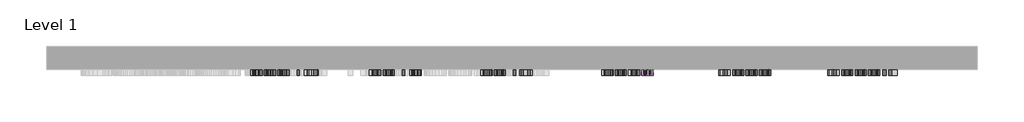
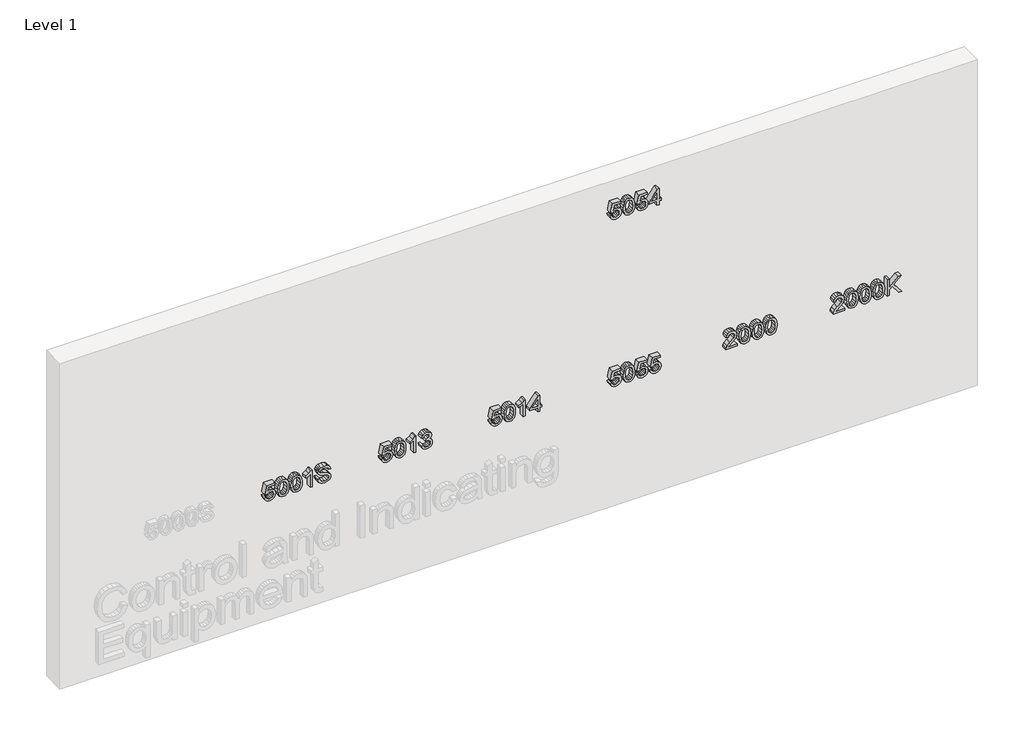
# One storey, part 2 of 2: 7 proxies.
"""IFC4 building model written with IfcOpenShell, lengths in millimetres."""

from ifc_helpers import new_model, si_unit, frame, origin, place, context, project, spatial, polyline, outline, extrude, element, save

model = new_model("IFC4")

# Units and contexts
model_context = context("Model", 3, world=origin())
ifc_project = project(units=[si_unit("LENGTHUNIT", "METRE", prefix="MILLI")], contexts=[model_context])

# Site, building, storey
site = spatial("IfcSite", under=ifc_project)
building = spatial("IfcBuilding", under=site)
storey = spatial("IfcBuildingStorey", under=building, Name="Level 1", Elevation=0.0)

# Proxies
placement = place(None, origin())
element("IfcBuildingElementProxy", 1, Name="150 mm", ObjectType="150 mm", at=placement, inside=storey, context=model_context, shape_type="SweptSolid", body=[
    extrude(outline(polyline([(1176.8590027, -3767.5415242), (1159.5823445, -3762.9475978), (1146.0856738, -3752.8446385), (1137.3806661, -3738.1063661), (1134.4789968, -3719.6065003), (1138.9947483, -3697.4232159), (1152.5420028, -3680.463856), (1168.6552342, -3671.6070969), (1187.4907923, -3668.6548439), (1206.786203, -3671.9335922), (1222.2188527, -3681.7698371), (1232.3448046, -3696.3793508), (1235.7201219, -3713.9779057), (1232.9977951, -3728.0769832), (1224.8308148, -3741.5322672), (1266.3279039, -3733.4756515), (1266.3279039, -3675.7181782), (1285.163462, -3675.7181782), (1285.163462, -3748.7059661), (1207.4667847, -3765.1870795), (1205.1123399, -3746.3515213), (1213.610414, -3735.7749139), (1216.8845637, -3719.2386183), (1214.8336216, -3705.2912921), (1208.6807953, -3695.3814709), (1198.9871047, -3689.4631693), (1186.3135699, -3687.4904021), (1172.8536874, -3689.5965265), (1162.346058, -3695.9148998), (1155.5724307, -3706.0316546), (1153.314555, -3719.5329239), (1154.9378343, -3730.6337631), (1159.8076722, -3739.2146106), (1167.9056746, -3745.2478753), (1179.2134474, -3748.7059661), (1176.8590027, -3767.5415242)])), frame((0.0, 3097.8550077, 0.0), z_axis=(0.0, 1.0, 0.0), x_axis=(0.0, 0.0, 1.0)), (0.0, 0.0, 1.0), 50.0),
    extrude(outline(polyline([(1210.9616636, -3652.1737305), (1174.3114199, -3648.4213342), (1148.8263946, -3637.1641451), (1138.0658463, -3622.3017125), (1134.4789968, -3602.7303904), (1136.5437345, -3587.5046743), (1142.7379476, -3575.1576348), (1153.130614, -3565.6064985), (1167.7907115, -3558.768492), (1186.9803561, -3554.6574107), (1210.9616636, -3553.2870502), (1246.3703057, -3556.7083528), (1268.6639546, -3565.5375207), (1282.6618645, -3580.7310471), (1287.5179068, -3602.7303904), (1285.4669647, -3617.873333), (1279.3141383, -3630.1927813), (1268.9628587, -3639.7577132), (1254.3165568, -3646.6371065), (1235.0809269, -3650.7895745), (1210.9616636, -3652.1737305)]), holes=[polyline([(1210.9984518, -3633.3381724), (1240.2450704, -3631.057304), (1258.602382, -3624.2146989), (1266.162357, -3614.7417375), (1268.6823487, -3602.9511196), (1265.8220662, -3590.498314), (1257.2412186, -3580.6574707), (1239.9599619, -3574.256324), (1210.9984518, -3572.1226084), (1181.4161409, -3574.3299004), (1164.2590443, -3580.9517763), (1156.0506773, -3590.8110137), (1153.314555, -3602.7303904), (1156.0414803, -3614.649767), (1164.2222561, -3624.5090045), (1181.3701556, -3631.1308804), (1210.9984518, -3633.3381724)])]), frame((0.0, 3097.8550077, 0.0), z_axis=(0.0, 1.0, 0.0), x_axis=(0.0, 0.0, 1.0)), (0.0, 0.0, 1.0), 50.0),
    extrude(outline(polyline([(1210.9616636, -3536.8059369), (1174.3114199, -3533.0535405), (1148.8263946, -3521.7963514), (1138.0658463, -3506.9339188), (1134.4789968, -3487.3625967), (1136.5437345, -3472.1368806), (1142.7379476, -3459.7898412), (1153.130614, -3450.2387049), (1167.7907115, -3443.4006983), (1186.9803561, -3439.289617), (1210.9616636, -3437.9192565), (1246.3703057, -3441.3405591), (1268.6639546, -3450.169727), (1282.6618645, -3465.3632534), (1287.5179068, -3487.3625967), (1285.4669647, -3502.5055393), (1279.3141383, -3514.8249876), (1268.9628587, -3524.3899195), (1254.3165568, -3531.2693128), (1235.0809269, -3535.4217808), (1210.9616636, -3536.8059369)]), holes=[polyline([(1210.9984518, -3517.9703787), (1240.2450704, -3515.6895103), (1258.602382, -3508.8469052), (1266.162357, -3499.3739438), (1268.6823487, -3487.5833259), (1265.8220662, -3475.1305204), (1257.2412186, -3465.289677), (1239.9599619, -3458.8885303), (1210.9984518, -3456.7548147), (1181.4161409, -3458.9621067), (1164.2590443, -3465.5839826), (1156.0506773, -3475.4432201), (1153.314555, -3487.3625967), (1156.0414803, -3499.2819733), (1164.2222561, -3509.1412108), (1181.3701556, -3515.7630867), (1210.9984518, -3517.9703787)])]), frame((0.0, 3097.8550077, 0.0), z_axis=(0.0, 1.0, 0.0), x_axis=(0.0, 0.0, 1.0)), (0.0, 0.0, 1.0), 50.0),
    extrude(outline(polyline([(1136.8334416, -3350.8048001), (1287.5179068, -3350.8048001), (1287.5179068, -3362.9449059), (1267.4683381, -3379.7019308), (1249.8467905, -3407.3114745), (1232.0413019, -3407.3114745), (1241.5510515, -3387.482635), (1254.2613745, -3369.6403582), (1136.8334416, -3369.6403582), (1136.8334416, -3350.8048001)])), frame((0.0, 3097.8550077, 0.0), z_axis=(0.0, 1.0, 0.0), x_axis=(0.0, 0.0, 1.0)), (0.0, 0.0, 1.0), 50.0),
    extrude(outline(polyline([(1188.6312265, -3306.0703495), (1173.419306, -3303.8354664), (1159.8628545, -3297.9401574), (1148.7344241, -3288.7569031), (1140.8065671, -3276.658184), (1136.0608894, -3261.4692561), (1134.4789968, -3243.0153755), (1135.9459263, -3227.9827975), (1140.3467146, -3214.522915), (1147.3916549, -3203.3301053), (1156.7910398, -3195.0987456), (1167.7125366, -3190.0357697), (1179.323812, -3188.348111), (1190.6821686, -3189.8150405), (1200.6241796, -3194.2158288), (1209.0578743, -3201.706826), (1215.8912824, -3212.4443817), (1225.3458496, -3245.7744905), (1235.8672747, -3276.5294253), (1241.6890073, -3281.0267827), (1248.9270855, -3282.5259018), (1257.4159626, -3280.4105803), (1264.5620703, -3274.0646159), (1269.4181127, -3263.0925354), (1271.0367934, -3247.0988656), (1269.3997186, -3231.4730779), (1264.4884939, -3220.2066918), (1256.3766959, -3212.9962047), (1245.137901, -3209.5381139), (1245.137901, -3190.7025558), (1257.6182977, -3192.8270743), (1268.7191369, -3198.1705603), (1277.8702015, -3206.6134521), (1284.5012745, -3218.036188), (1289.8723516, -3247.8346296), (1284.7403978, -3275.7568731), (1278.4128274, -3286.7979315), (1269.6940242, -3294.8315545), (1259.4071239, -3299.7289836), (1248.3752625, -3301.3614599), (1229.650069, -3296.0823533), (1215.633765, -3280.0610924), (1206.3447446, -3250.5385623), (1199.1526516, -3223.1129596), (1190.5993952, -3210.3106661), (1178.8455654, -3207.1836692), (1166.2088189, -3211.3591298), (1156.7542516, -3224.0694528), (1153.314555, -3243.7511395), (1157.8578976, -3266.339094), (1169.7772743, -3281.1647384), (1188.6312265, -3287.2347913), (1188.6312265, -3306.0703495)])), frame((0.0, 3097.8550077, 0.0), z_axis=(0.0, 1.0, 0.0), x_axis=(0.0, 0.0, 1.0)), (0.0, 0.0, 1.0), 50.0),
])
element("IfcBuildingElementProxy", 2, Name="150 mm", ObjectType="150 mm", at=placement, inside=storey, context=model_context, shape_type="SweptSolid", body=[
    extrude(outline(polyline([(1176.8590027, -2747.5415242), (1159.5823445, -2742.9475978), (1146.0856738, -2732.8446385), (1137.3806661, -2718.1063661), (1134.4789968, -2699.6065003), (1138.9947483, -2677.4232159), (1152.5420028, -2660.463856), (1168.6552342, -2651.6070969), (1187.4907923, -2648.6548439), (1206.786203, -2651.9335922), (1222.2188527, -2661.7698371), (1232.3448046, -2676.3793508), (1235.7201219, -2693.9779057), (1232.9977951, -2708.0769832), (1224.8308148, -2721.5322672), (1266.3279039, -2713.4756515), (1266.3279039, -2655.7181782), (1285.163462, -2655.7181782), (1285.163462, -2728.7059661), (1207.4667847, -2745.1870795), (1205.1123399, -2726.3515213), (1213.610414, -2715.7749139), (1216.8845637, -2699.2386183), (1214.8336216, -2685.2912921), (1208.6807953, -2675.3814709), (1198.9871047, -2669.4631693), (1186.3135699, -2667.4904021), (1172.8536874, -2669.5965265), (1162.346058, -2675.9148998), (1155.5724307, -2686.0316546), (1153.314555, -2699.5329239), (1154.9378343, -2710.6337631), (1159.8076722, -2719.2146106), (1167.9056746, -2725.2478753), (1179.2134474, -2728.7059661), (1176.8590027, -2747.5415242)])), frame((0.0, 3097.8550077, 0.0), z_axis=(0.0, 1.0, 0.0), x_axis=(0.0, 0.0, 1.0)), (0.0, 0.0, 1.0), 50.0),
    extrude(outline(polyline([(1210.9616636, -2632.1737305), (1174.3114199, -2628.4213342), (1148.8263946, -2617.1641451), (1138.0658463, -2602.3017125), (1134.4789968, -2582.7303904), (1136.5437345, -2567.5046743), (1142.7379476, -2555.1576348), (1153.130614, -2545.6064985), (1167.7907115, -2538.768492), (1186.9803561, -2534.6574107), (1210.9616636, -2533.2870502), (1246.3703057, -2536.7083528), (1268.6639546, -2545.5375207), (1282.6618645, -2560.7310471), (1287.5179068, -2582.7303904), (1285.4669647, -2597.873333), (1279.3141383, -2610.1927813), (1268.9628587, -2619.7577132), (1254.3165568, -2626.6371065), (1235.0809269, -2630.7895745), (1210.9616636, -2632.1737305)]), holes=[polyline([(1210.9984518, -2613.3381724), (1240.2450704, -2611.057304), (1258.602382, -2604.2146989), (1266.162357, -2594.7417375), (1268.6823487, -2582.9511196), (1265.8220662, -2570.498314), (1257.2412186, -2560.6574707), (1239.9599619, -2554.256324), (1210.9984518, -2552.1226084), (1181.4161409, -2554.3299004), (1164.2590443, -2560.9517763), (1156.0506773, -2570.8110137), (1153.314555, -2582.7303904), (1156.0414803, -2594.649767), (1164.2222561, -2604.5090045), (1181.3701556, -2611.1308804), (1210.9984518, -2613.3381724)])]), frame((0.0, 3097.8550077, 0.0), z_axis=(0.0, 1.0, 0.0), x_axis=(0.0, 0.0, 1.0)), (0.0, 0.0, 1.0), 50.0),
    extrude(outline(polyline([(1136.8334416, -2446.1725938), (1287.5179068, -2446.1725938), (1287.5179068, -2458.3126996), (1267.4683381, -2475.0697245), (1249.8467905, -2502.6792682), (1232.0413019, -2502.6792682), (1241.5510515, -2482.8504287), (1254.2613745, -2465.0081519), (1136.8334416, -2465.0081519), (1136.8334416, -2446.1725938)])), frame((0.0, 3097.8550077, 0.0), z_axis=(0.0, 1.0, 0.0), x_axis=(0.0, 0.0, 1.0)), (0.0, 0.0, 1.0), 50.0),
    extrude(outline(polyline([(1176.8590027, -2401.4381432), (1159.8352633, -2396.7752389), (1146.2880089, -2386.465346), (1137.4312498, -2371.6397016), (1134.4789968, -2353.4295428), (1137.9370876, -2333.2972006), (1148.3113598, -2316.9724371), (1163.652039, -2306.1567064), (1182.0093506, -2302.5514629), (1195.4922257, -2304.3540846), (1206.5102915, -2309.76195), (1214.6220895, -2318.4991474), (1219.3861613, -2330.2897653), (1231.8573609, -2314.8387215), (1249.2213911, -2309.6147972), (1268.2224962, -2315.114633), (1282.3491648, -2331.0071352), (1287.5179068, -2353.7238484), (1284.8967476, -2370.1681736), (1277.03327, -2383.6694428), (1264.4057205, -2393.5378773), (1247.4923457, -2399.0836984), (1245.137901, -2380.2481402), (1255.4385968, -2376.9096111), (1262.7962367, -2371.0143022), (1267.2108207, -2362.9392924), (1268.6823487, -2353.0616608), (1267.2246163, -2343.2024233), (1262.851419, -2335.3297486), (1256.2525358, -2330.1702036), (1248.1177451, -2328.4503553), (1238.3504782, -2330.8231942), (1231.489479, -2337.9417108), (1226.0816136, -2359.3156547), (1226.3023428, -2362.3322871), (1207.4667847, -2364.4292144), (1209.5269238, -2351.2222508), (1207.6001419, -2339.3764506), (1201.819796, -2329.8115187), (1193.0963942, -2323.4931454), (1182.3404444, -2321.387021), (1171.0096789, -2323.5115395), (1161.6654763, -2329.8850951), (1155.4022853, -2339.8546972), (1153.314555, -2352.7673552), (1154.8320682, -2363.7716254), (1159.3846079, -2372.2099186), (1167.3768442, -2378.3857376), (1179.2134474, -2382.602585), (1176.8590027, -2401.4381432)])), frame((0.0, 3097.8550077, 0.0), z_axis=(0.0, 1.0, 0.0), x_axis=(0.0, 0.0, 1.0)), (0.0, 0.0, 1.0), 50.0),
])
element("IfcBuildingElementProxy", 3, Name="150 mm", ObjectType="150 mm", at=placement, inside=storey, context=model_context, shape_type="SweptSolid", body=[
    extrude(outline(polyline([(1176.8590027, -1793.2331678), (1159.5823445, -1788.6392414), (1146.0856738, -1778.5362821), (1137.3806661, -1763.7980097), (1134.4789968, -1745.2981438), (1138.9947483, -1723.1148595), (1152.5420028, -1706.1554995), (1168.6552342, -1697.2987405), (1187.4907923, -1694.3464875), (1206.786203, -1697.6252358), (1222.2188527, -1707.4614806), (1232.3448046, -1722.0709944), (1235.7201219, -1739.6695493), (1232.9977951, -1753.7686268), (1224.8308148, -1767.2239107), (1266.3279039, -1759.167295), (1266.3279039, -1701.4098218), (1285.163462, -1701.4098218), (1285.163462, -1774.3976096), (1207.4667847, -1790.878723), (1205.1123399, -1772.0431649), (1213.610414, -1761.4665575), (1216.8845637, -1744.9302618), (1214.8336216, -1730.9829357), (1208.6807953, -1721.0731144), (1198.9871047, -1715.1548129), (1186.3135699, -1713.1820457), (1172.8536874, -1715.2881701), (1162.346058, -1721.6065433), (1155.5724307, -1731.7232982), (1153.314555, -1745.2245674), (1154.9378343, -1756.3254066), (1159.8076722, -1764.9062542), (1167.9056746, -1770.9395189), (1179.2134474, -1774.3976096), (1176.8590027, -1793.2331678)])), frame((0.0, 3097.8550077, 0.0), z_axis=(0.0, 1.0, 0.0), x_axis=(0.0, 0.0, 1.0)), (0.0, 0.0, 1.0), 50.0),
    extrude(outline(polyline([(1210.9616636, -1677.8653741), (1174.3114199, -1674.1129778), (1148.8263946, -1662.8557887), (1138.0658463, -1647.9933561), (1134.4789968, -1628.422034), (1136.5437345, -1613.1963179), (1142.7379476, -1600.8492784), (1153.130614, -1591.2981421), (1167.7907115, -1584.4601355), (1186.9803561, -1580.3490542), (1210.9616636, -1578.9786938), (1246.3703057, -1582.3999964), (1268.6639546, -1591.2291643), (1282.6618645, -1606.4226907), (1287.5179068, -1628.422034), (1285.4669647, -1643.5649766), (1279.3141383, -1655.8844249), (1268.9628587, -1665.4493568), (1254.3165568, -1672.3287501), (1235.0809269, -1676.4812181), (1210.9616636, -1677.8653741)]), holes=[polyline([(1210.9984518, -1659.029816), (1240.2450704, -1656.7489476), (1258.602382, -1649.9063425), (1266.162357, -1640.4333811), (1268.6823487, -1628.6427632), (1265.8220662, -1616.1899576), (1257.2412186, -1606.3491143), (1239.9599619, -1599.9479675), (1210.9984518, -1597.814252), (1181.4161409, -1600.0215439), (1164.2590443, -1606.6434198), (1156.0506773, -1616.5026573), (1153.314555, -1628.422034), (1156.0414803, -1640.3414106), (1164.2222561, -1650.2006481), (1181.3701556, -1656.822524), (1210.9984518, -1659.029816)])]), frame((0.0, 3097.8550077, 0.0), z_axis=(0.0, 1.0, 0.0), x_axis=(0.0, 0.0, 1.0)), (0.0, 0.0, 1.0), 50.0),
    extrude(outline(polyline([(1136.8334416, -1491.8642374), (1287.5179068, -1491.8642374), (1287.5179068, -1504.0043432), (1267.4683381, -1520.7613681), (1249.8467905, -1548.3709118), (1232.0413019, -1548.3709118), (1241.5510515, -1528.5420723), (1254.2613745, -1510.6997955), (1136.8334416, -1510.6997955), (1136.8334416, -1491.8642374)])), frame((0.0, 3097.8550077, 0.0), z_axis=(0.0, 1.0, 0.0), x_axis=(0.0, 0.0, 1.0)), (0.0, 0.0, 1.0), 50.0),
    extrude(outline(polyline([(1136.8334416, -1385.9142227), (1136.8334416, -1367.0786646), (1172.1501131, -1367.0786646), (1172.1501131, -1348.2431064), (1190.9856713, -1348.2431064), (1190.9856713, -1367.0786646), (1285.163462, -1367.0786646), (1285.163462, -1381.2053332), (1190.9856713, -1454.193121), (1172.1501131, -1454.193121), (1172.1501131, -1385.9142227), (1136.8334416, -1385.9142227)]), holes=[polyline([(1190.9856713, -1385.9142227), (1190.9856713, -1431.0165554), (1249.1846029, -1385.9142227), (1190.9856713, -1385.9142227)])]), frame((0.0, 3097.8550077, 0.0), z_axis=(0.0, 1.0, 0.0), x_axis=(0.0, 0.0, 1.0)), (0.0, 0.0, 1.0), 50.0),
])
element("IfcBuildingElementProxy", 4, Name="150 mm", ObjectType="150 mm", at=placement, inside=storey, context=model_context, shape_type="SweptSolid", body=[
    extrude(outline(polyline([(1176.8590027, -753.2331678), (1159.5823445, -748.6392414), (1146.0856738, -738.5362821), (1137.3806661, -723.7980097), (1134.4789968, -705.2981438), (1138.9947483, -683.1148595), (1152.5420028, -666.1554995), (1168.6552342, -657.2987405), (1187.4907923, -654.3464875), (1206.786203, -657.6252358), (1222.2188527, -667.4614806), (1232.3448046, -682.0709944), (1235.7201219, -699.6695493), (1232.9977951, -713.7686268), (1224.8308148, -727.2239107), (1266.3279039, -719.167295), (1266.3279039, -661.4098218), (1285.163462, -661.4098218), (1285.163462, -734.3976096), (1207.4667847, -750.878723), (1205.1123399, -732.0431649), (1213.610414, -721.4665575), (1216.8845637, -704.9302618), (1214.8336216, -690.9829357), (1208.6807953, -681.0731144), (1198.9871047, -675.1548129), (1186.3135699, -673.1820457), (1172.8536874, -675.2881701), (1162.346058, -681.6065433), (1155.5724307, -691.7232982), (1153.314555, -705.2245674), (1154.9378343, -716.3254066), (1159.8076722, -724.9062542), (1167.9056746, -730.9395189), (1179.2134474, -734.3976096), (1176.8590027, -753.2331678)])), frame((0.0, 3097.8550077, 0.0), z_axis=(0.0, 1.0, 0.0), x_axis=(0.0, 0.0, 1.0)), (0.0, 0.0, 1.0), 50.0),
    extrude(outline(polyline([(1210.9616636, -637.8653741), (1174.3114199, -634.1129778), (1148.8263946, -622.8557887), (1138.0658463, -607.9933561), (1134.4789968, -588.422034), (1136.5437345, -573.1963179), (1142.7379476, -560.8492784), (1153.130614, -551.2981421), (1167.7907115, -544.4601355), (1186.9803561, -540.3490542), (1210.9616636, -538.9786938), (1246.3703057, -542.3999964), (1268.6639546, -551.2291643), (1282.6618645, -566.4226907), (1287.5179068, -588.422034), (1285.4669647, -603.5649766), (1279.3141383, -615.8844249), (1268.9628587, -625.4493568), (1254.3165568, -632.3287501), (1235.0809269, -636.4812181), (1210.9616636, -637.8653741)]), holes=[polyline([(1210.9984518, -619.029816), (1240.2450704, -616.7489476), (1258.602382, -609.9063425), (1266.162357, -600.4333811), (1268.6823487, -588.6427632), (1265.8220662, -576.1899576), (1257.2412186, -566.3491143), (1239.9599619, -559.9479675), (1210.9984518, -557.814252), (1181.4161409, -560.0215439), (1164.2590443, -566.6434198), (1156.0506773, -576.5026573), (1153.314555, -588.422034), (1156.0414803, -600.3414106), (1164.2222561, -610.2006481), (1181.3701556, -616.822524), (1210.9984518, -619.029816)])]), frame((0.0, 3097.8550077, 0.0), z_axis=(0.0, 1.0, 0.0), x_axis=(0.0, 0.0, 1.0)), (0.0, 0.0, 1.0), 50.0),
    extrude(outline(polyline([(1176.8590027, -522.4975804), (1159.5823445, -517.903654), (1146.0856738, -507.8006947), (1137.3806661, -493.0624223), (1134.4789968, -474.5625565), (1138.9947483, -452.3792721), (1152.5420028, -435.4199122), (1168.6552342, -426.5631531), (1187.4907923, -423.6109001), (1206.786203, -426.8896484), (1222.2188527, -436.7258933), (1232.3448046, -451.335407), (1235.7201219, -468.9339619), (1232.9977951, -483.0330394), (1224.8308148, -496.4883234), (1266.3279039, -488.4317077), (1266.3279039, -430.6742344), (1285.163462, -430.6742344), (1285.163462, -503.6620223), (1207.4667847, -520.1431357), (1205.1123399, -501.3075775), (1213.610414, -490.7309701), (1216.8845637, -474.1946745), (1214.8336216, -460.2473483), (1208.6807953, -450.3375271), (1198.9871047, -444.4192255), (1186.3135699, -442.4464583), (1172.8536874, -444.5525827), (1162.346058, -450.870956), (1155.5724307, -460.9877108), (1153.314555, -474.4889801), (1154.9378343, -485.5898193), (1159.8076722, -494.1706668), (1167.9056746, -500.2039315), (1179.2134474, -503.6620223), (1176.8590027, -522.4975804)])), frame((0.0, 3097.8550077, 0.0), z_axis=(0.0, 1.0, 0.0), x_axis=(0.0, 0.0, 1.0)), (0.0, 0.0, 1.0), 50.0),
    extrude(outline(polyline([(1176.8590027, -407.1297867), (1159.5823445, -402.5358603), (1146.0856738, -392.432901), (1137.3806661, -377.6946286), (1134.4789968, -359.1947628), (1138.9947483, -337.0114785), (1152.5420028, -320.0521185), (1168.6552342, -311.1953594), (1187.4907923, -308.2431064), (1206.786203, -311.5218547), (1222.2188527, -321.3580996), (1232.3448046, -335.9676133), (1235.7201219, -353.5661682), (1232.9977951, -367.6652457), (1224.8308148, -381.1205297), (1266.3279039, -373.063914), (1266.3279039, -315.3064407), (1285.163462, -315.3064407), (1285.163462, -388.2942286), (1207.4667847, -404.775342), (1205.1123399, -385.9397838), (1213.610414, -375.3631765), (1216.8845637, -358.8268808), (1214.8336216, -344.8795546), (1208.6807953, -334.9697334), (1198.9871047, -329.0514318), (1186.3135699, -327.0786646), (1172.8536874, -329.184789), (1162.346058, -335.5031623), (1155.5724307, -345.6199171), (1153.314555, -359.1211864), (1154.9378343, -370.2220256), (1159.8076722, -378.8028731), (1167.9056746, -384.8361378), (1179.2134474, -388.2942286), (1176.8590027, -407.1297867)])), frame((0.0, 3097.8550077, 0.0), z_axis=(0.0, 1.0, 0.0), x_axis=(0.0, 0.0, 1.0)), (0.0, 0.0, 1.0), 50.0),
])
element("IfcBuildingElementProxy", 5, Name="150 mm", ObjectType="150 mm", at=placement, inside=storey, context=model_context, shape_type="SweptSolid", body=[
    extrude(outline(polyline([(2716.8590027, -753.2331678), (2699.5823445, -748.6392414), (2686.0856738, -738.5362821), (2677.3806661, -723.7980097), (2674.4789968, -705.2981438), (2678.9947483, -683.1148595), (2692.5420028, -666.1554995), (2708.6552342, -657.2987405), (2727.4907923, -654.3464875), (2746.786203, -657.6252358), (2762.2188527, -667.4614806), (2772.3448046, -682.0709944), (2775.7201219, -699.6695493), (2772.9977951, -713.7686268), (2764.8308148, -727.2239107), (2806.3279039, -719.167295), (2806.3279039, -661.4098218), (2825.163462, -661.4098218), (2825.163462, -734.3976096), (2747.4667847, -750.878723), (2745.1123399, -732.0431649), (2753.610414, -721.4665575), (2756.8845637, -704.9302618), (2754.8336216, -690.9829357), (2748.6807953, -681.0731144), (2738.9871047, -675.1548129), (2726.3135699, -673.1820457), (2712.8536874, -675.2881701), (2702.346058, -681.6065433), (2695.5724307, -691.7232982), (2693.314555, -705.2245674), (2694.9378343, -716.3254066), (2699.8076722, -724.9062542), (2707.9056746, -730.9395189), (2719.2134474, -734.3976096), (2716.8590027, -753.2331678)])), frame((0.0, 3097.8550077, 0.0), z_axis=(0.0, 1.0, 0.0), x_axis=(0.0, 0.0, 1.0)), (0.0, 0.0, 1.0), 50.0),
    extrude(outline(polyline([(2750.9616636, -637.8653741), (2714.3114199, -634.1129778), (2688.8263946, -622.8557887), (2678.0658463, -607.9933561), (2674.4789968, -588.422034), (2676.5437345, -573.1963179), (2682.7379476, -560.8492784), (2693.130614, -551.2981421), (2707.7907115, -544.4601355), (2726.9803561, -540.3490542), (2750.9616636, -538.9786938), (2786.3703057, -542.3999964), (2808.6639546, -551.2291643), (2822.6618645, -566.4226907), (2827.5179068, -588.422034), (2825.4669647, -603.5649766), (2819.3141383, -615.8844249), (2808.9628587, -625.4493568), (2794.3165568, -632.3287501), (2775.0809269, -636.4812181), (2750.9616636, -637.8653741)]), holes=[polyline([(2750.9984518, -619.029816), (2780.2450704, -616.7489476), (2798.602382, -609.9063425), (2806.162357, -600.4333811), (2808.6823487, -588.6427632), (2805.8220662, -576.1899576), (2797.2412186, -566.3491143), (2779.9599619, -559.9479675), (2750.9984518, -557.814252), (2721.4161409, -560.0215439), (2704.2590443, -566.6434198), (2696.0506773, -576.5026573), (2693.314555, -588.422034), (2696.0414803, -600.3414106), (2704.2222561, -610.2006481), (2721.3701556, -616.822524), (2750.9984518, -619.029816)])]), frame((0.0, 3097.8550077, 0.0), z_axis=(0.0, 1.0, 0.0), x_axis=(0.0, 0.0, 1.0)), (0.0, 0.0, 1.0), 50.0),
    extrude(outline(polyline([(2716.8590027, -522.4975804), (2699.5823445, -517.903654), (2686.0856738, -507.8006947), (2677.3806661, -493.0624223), (2674.4789968, -474.5625565), (2678.9947483, -452.3792721), (2692.5420028, -435.4199122), (2708.6552342, -426.5631531), (2727.4907923, -423.6109001), (2746.786203, -426.8896484), (2762.2188527, -436.7258933), (2772.3448046, -451.335407), (2775.7201219, -468.9339619), (2772.9977951, -483.0330394), (2764.8308148, -496.4883234), (2806.3279039, -488.4317077), (2806.3279039, -430.6742344), (2825.163462, -430.6742344), (2825.163462, -503.6620223), (2747.4667847, -520.1431357), (2745.1123399, -501.3075775), (2753.610414, -490.7309701), (2756.8845637, -474.1946745), (2754.8336216, -460.2473483), (2748.6807953, -450.3375271), (2738.9871047, -444.4192255), (2726.3135699, -442.4464583), (2712.8536874, -444.5525827), (2702.346058, -450.870956), (2695.5724307, -460.9877108), (2693.314555, -474.4889801), (2694.9378343, -485.5898193), (2699.8076722, -494.1706668), (2707.9056746, -500.2039315), (2719.2134474, -503.6620223), (2716.8590027, -522.4975804)])), frame((0.0, 3097.8550077, 0.0), z_axis=(0.0, 1.0, 0.0), x_axis=(0.0, 0.0, 1.0)), (0.0, 0.0, 1.0), 50.0),
    extrude(outline(polyline([(2676.8334416, -345.9142227), (2676.8334416, -327.0786646), (2712.1501131, -327.0786646), (2712.1501131, -308.2431064), (2730.9856713, -308.2431064), (2730.9856713, -327.0786646), (2825.163462, -327.0786646), (2825.163462, -341.2053332), (2730.9856713, -414.193121), (2712.1501131, -414.193121), (2712.1501131, -345.9142227), (2676.8334416, -345.9142227)]), holes=[polyline([(2730.9856713, -345.9142227), (2730.9856713, -391.0165554), (2789.1846029, -345.9142227), (2730.9856713, -345.9142227)])]), frame((0.0, 3097.8550077, 0.0), z_axis=(0.0, 1.0, 0.0), x_axis=(0.0, 0.0, 1.0)), (0.0, 0.0, 1.0), 50.0),
])
element("IfcBuildingElementProxy", 6, Name="150 mm", ObjectType="150 mm", at=placement, inside=storey, context=model_context, shape_type="SweptSolid", body=[
    extrude(outline(polyline([(1155.6689997, 352.9302857), (1155.6689997, 278.9492165), (1165.2523257, 287.4472906), (1183.370514, 309.1155401), (1209.1774359, 336.0996844), (1227.6451121, 347.2281148), (1245.505783, 350.5758409), (1261.9317141, 347.4718366), (1275.4513774, 338.1598236), (1284.5012745, 323.5227187), (1287.5179068, 304.4434387), (1284.8047771, 285.5021145), (1276.665388, 270.8374185), (1263.3572568, 260.9643854), (1245.137901, 256.3980502), (1242.7834562, 275.2336083), (1253.6083839, 277.2707549), (1261.8029554, 283.1614653), (1266.9625003, 292.2895373), (1268.6823487, 304.0387685), (1266.9211136, 315.2269797), (1261.6374085, 324.0699432), (1253.7969234, 329.8226979), (1244.3653488, 331.7402828), (1233.8439237, 329.7077348), (1223.0281931, 323.6100907), (1191.6478589, 291.0893223), (1169.8140625, 267.5080864), (1149.819676, 256.0669564), (1136.8334416, 254.0436054), (1136.8334416, 352.9302857), (1155.6689997, 352.9302857)])), frame((0.0, 3097.8550077, 0.0), z_axis=(0.0, 1.0, 0.0), x_axis=(0.0, 0.0, 1.0)), (0.0, 0.0, 1.0), 50.0),
    extrude(outline(polyline([(1210.9616636, 371.7658439), (1174.3114199, 375.5182402), (1148.8263946, 386.7754293), (1138.0658463, 401.6378619), (1134.4789968, 421.209184), (1136.5437345, 436.4349001), (1142.7379476, 448.7819395), (1153.130614, 458.3330758), (1167.7907115, 465.1710824), (1186.9803561, 469.2821637), (1210.9616636, 470.6525242), (1246.3703057, 467.2312216), (1268.6639546, 458.4020537), (1282.6618645, 443.2085273), (1287.5179068, 421.209184), (1285.4669647, 406.0662414), (1279.3141383, 393.7467931), (1268.9628587, 384.1818612), (1254.3165568, 377.3024679), (1235.0809269, 373.1499999), (1210.9616636, 371.7658439)]), holes=[polyline([(1210.9984518, 390.601402), (1240.2450704, 392.8822704), (1258.602382, 399.7248755), (1266.162357, 409.1978369), (1268.6823487, 420.9884548), (1265.8220662, 433.4412603), (1257.2412186, 443.2821037), (1239.9599619, 449.6832504), (1210.9984518, 451.816966), (1181.4161409, 449.609674), (1164.2590443, 442.9877981), (1156.0506773, 433.1285607), (1153.314555, 421.209184), (1156.0414803, 409.2898074), (1164.2222561, 399.4305699), (1181.3701556, 392.808694), (1210.9984518, 390.601402)])]), frame((0.0, 3097.8550077, 0.0), z_axis=(0.0, 1.0, 0.0), x_axis=(0.0, 0.0, 1.0)), (0.0, 0.0, 1.0), 50.0),
    extrude(outline(polyline([(1210.9616636, 487.1336375), (1174.3114199, 490.8860339), (1148.8263946, 502.1432229), (1138.0658463, 517.0056556), (1134.4789968, 536.5769777), (1136.5437345, 551.8026938), (1142.7379476, 564.1497332), (1153.130614, 573.7008695), (1167.7907115, 580.5388761), (1186.9803561, 584.6499574), (1210.9616636, 586.0203178), (1246.3703057, 582.5990153), (1268.6639546, 573.7698474), (1282.6618645, 558.576321), (1287.5179068, 536.5769777), (1285.4669647, 521.4340351), (1279.3141383, 509.1145868), (1268.9628587, 499.5496549), (1254.3165568, 492.6702616), (1235.0809269, 488.5177936), (1210.9616636, 487.1336375)]), holes=[polyline([(1210.9984518, 505.9691957), (1240.2450704, 508.2500641), (1258.602382, 515.0926692), (1266.162357, 524.5656306), (1268.6823487, 536.3562485), (1265.8220662, 548.809054), (1257.2412186, 558.6498974), (1239.9599619, 565.0510441), (1210.9984518, 567.1847597), (1181.4161409, 564.9774677), (1164.2590443, 558.3555918), (1156.0506773, 548.4963543), (1153.314555, 536.5769777), (1156.0414803, 524.6576011), (1164.2222561, 514.7983636), (1181.3701556, 508.1764877), (1210.9984518, 505.9691957)])]), frame((0.0, 3097.8550077, 0.0), z_axis=(0.0, 1.0, 0.0), x_axis=(0.0, 0.0, 1.0)), (0.0, 0.0, 1.0), 50.0),
    extrude(outline(polyline([(1210.9616636, 602.5014312), (1174.3114199, 606.2538276), (1148.8263946, 617.5110166), (1138.0658463, 632.3734492), (1134.4789968, 651.9447714), (1136.5437345, 667.1704875), (1142.7379476, 679.5175269), (1153.130614, 689.0686632), (1167.7907115, 695.9066698), (1186.9803561, 700.0177511), (1210.9616636, 701.3881115), (1246.3703057, 697.966809), (1268.6639546, 689.1376411), (1282.6618645, 673.9441147), (1287.5179068, 651.9447714), (1285.4669647, 636.8018288), (1279.3141383, 624.4823804), (1268.9628587, 614.9174486), (1254.3165568, 608.0380553), (1235.0809269, 603.8855872), (1210.9616636, 602.5014312)]), holes=[polyline([(1210.9984518, 621.3369894), (1240.2450704, 623.6178578), (1258.602382, 630.4604629), (1266.162357, 639.9334242), (1268.6823487, 651.7240422), (1265.8220662, 664.1768477), (1257.2412186, 674.0176911), (1239.9599619, 680.4188378), (1210.9984518, 682.5525534), (1181.4161409, 680.3452614), (1164.2590443, 673.7233855), (1156.0506773, 663.864148), (1153.314555, 651.9447714), (1156.0414803, 640.0253947), (1164.2222561, 630.1661573), (1181.3701556, 623.5442814), (1210.9984518, 621.3369894)])]), frame((0.0, 3097.8550077, 0.0), z_axis=(0.0, 1.0, 0.0), x_axis=(0.0, 0.0, 1.0)), (0.0, 0.0, 1.0), 50.0),
])
element("IfcBuildingElementProxy", 7, Name="150 mm", ObjectType="150 mm", at=placement, inside=storey, context=model_context, shape_type="SweptSolid", body=[
    extrude(outline(polyline([(1155.6689997, 1289.8375894), (1155.6689997, 1215.8565201), (1165.2523257, 1224.3545942), (1183.370514, 1246.0228437), (1209.1774359, 1273.0069881), (1227.6451121, 1284.1354184), (1245.505783, 1287.4831446), (1261.9317141, 1284.3791403), (1275.4513774, 1275.0671273), (1284.5012745, 1260.4300224), (1287.5179068, 1241.3507424), (1284.8047771, 1222.4094182), (1276.665388, 1207.7447221), (1263.3572568, 1197.8716891), (1245.137901, 1193.3053538), (1242.7834562, 1212.140912), (1253.6083839, 1214.1780585), (1261.8029554, 1220.068769), (1266.9625003, 1229.196841), (1268.6823487, 1240.9460722), (1266.9211136, 1252.1342834), (1261.6374085, 1260.9772468), (1253.7969234, 1266.7300015), (1244.3653488, 1268.6475864), (1233.8439237, 1266.6150384), (1223.0281931, 1260.5173943), (1191.6478589, 1227.996626), (1169.8140625, 1204.4153901), (1149.819676, 1192.97426), (1136.8334416, 1190.9509091), (1136.8334416, 1289.8375894), (1155.6689997, 1289.8375894)])), frame((0.0, 3097.8550077, 0.0), z_axis=(0.0, 1.0, 0.0), x_axis=(0.0, 0.0, 1.0)), (0.0, 0.0, 1.0), 50.0),
    extrude(outline(polyline([(1210.9616636, 1308.6731475), (1174.3114199, 1312.4255439), (1148.8263946, 1323.6827329), (1138.0658463, 1338.5451655), (1134.4789968, 1358.1164877), (1136.5437345, 1373.3422037), (1142.7379476, 1385.6892432), (1153.130614, 1395.2403795), (1167.7907115, 1402.0783861), (1186.9803561, 1406.1894674), (1210.9616636, 1407.5598278), (1246.3703057, 1404.1385253), (1268.6639546, 1395.3093574), (1282.6618645, 1380.115831), (1287.5179068, 1358.1164877), (1285.4669647, 1342.973545), (1279.3141383, 1330.6540967), (1268.9628587, 1321.0891648), (1254.3165568, 1314.2097715), (1235.0809269, 1310.0573035), (1210.9616636, 1308.6731475)]), holes=[polyline([(1210.9984518, 1327.5087057), (1240.2450704, 1329.789574), (1258.602382, 1336.6321791), (1266.162357, 1346.1051405), (1268.6823487, 1357.8957585), (1265.8220662, 1370.348564), (1257.2412186, 1380.1894074), (1239.9599619, 1386.5905541), (1210.9984518, 1388.7242697), (1181.4161409, 1386.5169777), (1164.2590443, 1379.8951018), (1156.0506773, 1370.0358643), (1153.314555, 1358.1164877), (1156.0414803, 1346.197111), (1164.2222561, 1336.3378735), (1181.3701556, 1329.7159976), (1210.9984518, 1327.5087057)])]), frame((0.0, 3097.8550077, 0.0), z_axis=(0.0, 1.0, 0.0), x_axis=(0.0, 0.0, 1.0)), (0.0, 0.0, 1.0), 50.0),
    extrude(outline(polyline([(1210.9616636, 1424.0409412), (1174.3114199, 1427.7933375), (1148.8263946, 1439.0505266), (1138.0658463, 1453.9129592), (1134.4789968, 1473.4842813), (1136.5437345, 1488.7099974), (1142.7379476, 1501.0570369), (1153.130614, 1510.6081732), (1167.7907115, 1517.4461798), (1186.9803561, 1521.5572611), (1210.9616636, 1522.9276215), (1246.3703057, 1519.5063189), (1268.6639546, 1510.6771511), (1282.6618645, 1495.4836247), (1287.5179068, 1473.4842813), (1285.4669647, 1458.3413387), (1279.3141383, 1446.0218904), (1268.9628587, 1436.4569585), (1254.3165568, 1429.5775652), (1235.0809269, 1425.4250972), (1210.9616636, 1424.0409412)]), holes=[polyline([(1210.9984518, 1442.8764994), (1240.2450704, 1445.1573677), (1258.602382, 1451.9999728), (1266.162357, 1461.4729342), (1268.6823487, 1473.2635522), (1265.8220662, 1485.7163577), (1257.2412186, 1495.5572011), (1239.9599619, 1501.9583478), (1210.9984518, 1504.0920633), (1181.4161409, 1501.8847714), (1164.2590443, 1495.2628955), (1156.0506773, 1485.403658), (1153.314555, 1473.4842813), (1156.0414803, 1461.5649047), (1164.2222561, 1451.7056672), (1181.3701556, 1445.0837913), (1210.9984518, 1442.8764994)])]), frame((0.0, 3097.8550077, 0.0), z_axis=(0.0, 1.0, 0.0), x_axis=(0.0, 0.0, 1.0)), (0.0, 0.0, 1.0), 50.0),
    extrude(outline(polyline([(1210.9616636, 1539.4087349), (1174.3114199, 1543.1611312), (1148.8263946, 1554.4183203), (1138.0658463, 1569.2807529), (1134.4789968, 1588.852075), (1136.5437345, 1604.0777911), (1142.7379476, 1616.4248306), (1153.130614, 1625.9759669), (1167.7907115, 1632.8139735), (1186.9803561, 1636.9250548), (1210.9616636, 1638.2954152), (1246.3703057, 1634.8741126), (1268.6639546, 1626.0449447), (1282.6618645, 1610.8514183), (1287.5179068, 1588.852075), (1285.4669647, 1573.7091324), (1279.3141383, 1561.3896841), (1268.9628587, 1551.8247522), (1254.3165568, 1544.9453589), (1235.0809269, 1540.7928909), (1210.9616636, 1539.4087349)]), holes=[polyline([(1210.9984518, 1558.244293), (1240.2450704, 1560.5251614), (1258.602382, 1567.3677665), (1266.162357, 1576.8407279), (1268.6823487, 1588.6313458), (1265.8220662, 1601.0841514), (1257.2412186, 1610.9249947), (1239.9599619, 1617.3261415), (1210.9984518, 1619.459857), (1181.4161409, 1617.2525651), (1164.2590443, 1610.6306892), (1156.0506773, 1600.7714517), (1153.314555, 1588.852075), (1156.0414803, 1576.9326984), (1164.2222561, 1567.0734609), (1181.3701556, 1560.451585), (1210.9984518, 1558.244293)])]), frame((0.0, 3097.8550077, 0.0), z_axis=(0.0, 1.0, 0.0), x_axis=(0.0, 0.0, 1.0)), (0.0, 0.0, 1.0), 50.0),
    extrude(outline(polyline([(1136.8334416, 1661.8398629), (1136.8334416, 1680.675421), (1188.6312265, 1680.675421), (1212.8378618, 1706.0592787), (1136.8334416, 1763.5960227), (1136.8334416, 1786.6254356), (1225.5665788, 1719.4133951), (1287.5179068, 1784.2709909), (1287.5179068, 1757.93064), (1213.7575668, 1680.675421), (1287.5179068, 1680.675421), (1287.5179068, 1661.8398629), (1136.8334416, 1661.8398629)])), frame((0.0, 3097.8550077, 0.0), z_axis=(0.0, 1.0, 0.0), x_axis=(0.0, 0.0, 1.0)), (0.0, 0.0, 1.0), 50.0),
])

save(model, "model.ifc")
